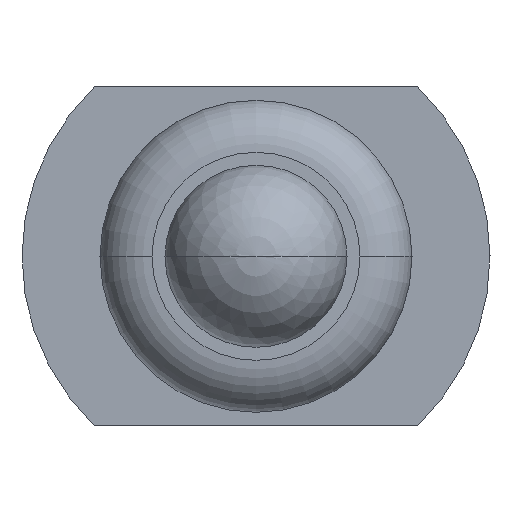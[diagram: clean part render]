
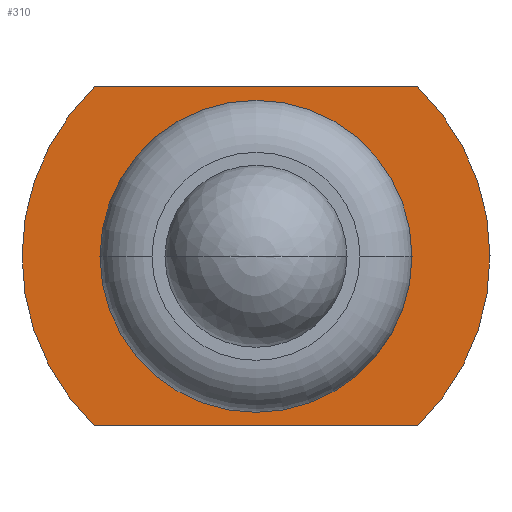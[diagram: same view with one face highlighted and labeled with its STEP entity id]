
A CAD part, left-side view. The second image highlights one B-rep face of the part: STEP entity #310.
In plain terms, the highlighted planar face has unit normal (-1, 0, 0).
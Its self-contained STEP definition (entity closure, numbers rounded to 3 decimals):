
#59=CARTESIAN_POINT('',(0.,0.,0.));
#60=DIRECTION('',(1.,0.,0.));
#61=DIRECTION('',(0.,1.,0.));
#62=AXIS2_PLACEMENT_3D('',#59,#60,#61);
#77=CARTESIAN_POINT('',(0.,0.,0.));
#78=DIRECTION('',(1.,0.,0.));
#79=DIRECTION('',(0.,0.692,-0.722));
#80=AXIS2_PLACEMENT_3D('',#77,#78,#79);
#82=DIRECTION('',(0.,-1.,0.));
#83=VECTOR('',#82,1.24);
#84=CARTESIAN_POINT('',(0.,0.62,0.652));
#85=LINE('',#84,#83);
#86=CARTESIAN_POINT('',(0.,0.,0.));
#87=DIRECTION('',(1.,0.,0.));
#88=DIRECTION('',(0.,-0.689,0.725));
#89=AXIS2_PLACEMENT_3D('',#86,#87,#88);
#91=DIRECTION('',(0.,1.,0.));
#92=VECTOR('',#91,1.245);
#93=CARTESIAN_POINT('',(0.,-0.622,-0.65));
#94=LINE('',#93,#92);
#129=CARTESIAN_POINT('',(0.,0.,0.));
#130=DIRECTION('',(1.,0.,0.));
#131=DIRECTION('',(0.,-1.,0.));
#132=AXIS2_PLACEMENT_3D('',#129,#130,#131);
#157=CARTESIAN_POINT('',(0.,0.622,-0.65));
#158=CARTESIAN_POINT('',(0.,0.62,0.652));
#159=VERTEX_POINT('',#157);
#160=VERTEX_POINT('',#158);
#161=CARTESIAN_POINT('',(0.,-0.62,0.652));
#162=VERTEX_POINT('',#161);
#163=CARTESIAN_POINT('',(0.,-0.622,-0.65));
#164=VERTEX_POINT('',#163);
#173=CARTESIAN_POINT('',(0.,-0.6,0.));
#174=CARTESIAN_POINT('',(0.,0.6,0.));
#175=VERTEX_POINT('',#173);
#176=VERTEX_POINT('',#174);
#290=CARTESIAN_POINT('',(0.,0.,0.));
#291=DIRECTION('',(1.,0.,0.));
#292=DIRECTION('',(0.,0.,-1.));
#293=AXIS2_PLACEMENT_3D('',#290,#291,#292);
#294=PLANE('',#293);
#296=ORIENTED_EDGE('',*,*,#295,.T.);
#298=ORIENTED_EDGE('',*,*,#297,.T.);
#300=ORIENTED_EDGE('',*,*,#299,.T.);
#302=ORIENTED_EDGE('',*,*,#301,.T.);
#303=EDGE_LOOP('',(#296,#298,#300,#302));
#304=FACE_OUTER_BOUND('',#303,.F.);
#306=ORIENTED_EDGE('',*,*,#305,.F.);
#307=ORIENTED_EDGE('',*,*,#280,.F.);
#308=EDGE_LOOP('',(#306,#307));
#309=FACE_BOUND('',#308,.F.);
#310=ADVANCED_FACE('',(#304,#309),#294,.F.);
#63=CIRCLE('',#62,0.6);
#81=CIRCLE('',#80,0.9);
#90=CIRCLE('',#89,0.9);
#133=CIRCLE('',#132,0.6);
#280=EDGE_CURVE('',#176,#175,#63,.T.);
#295=EDGE_CURVE('',#159,#160,#81,.T.);
#297=EDGE_CURVE('',#160,#162,#85,.T.);
#299=EDGE_CURVE('',#162,#164,#90,.T.);
#301=EDGE_CURVE('',#164,#159,#94,.T.);
#305=EDGE_CURVE('',#175,#176,#133,.T.);
